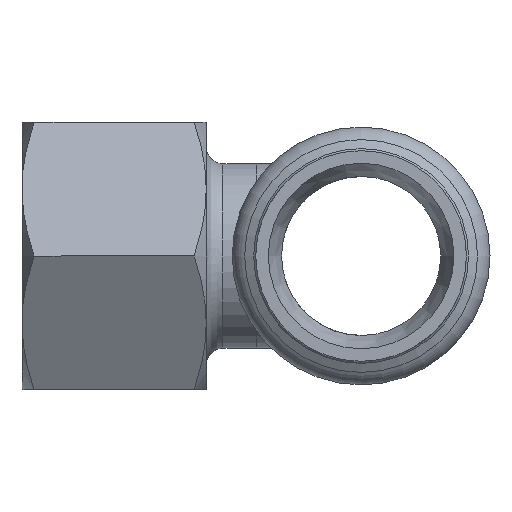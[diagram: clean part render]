
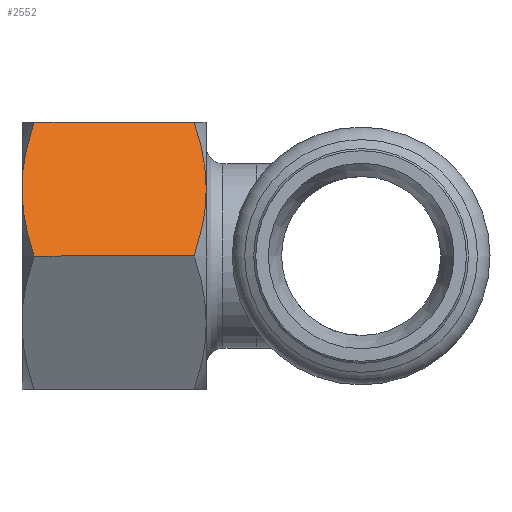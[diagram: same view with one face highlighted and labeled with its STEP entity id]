
A CAD part, left-side view. The second image highlights one B-rep face of the part: STEP entity #2552.
In plain terms, the highlighted planar face has unit normal (-0.866, 0, 0.5) as drawn and (0.866, -0.5, 0) by its records, which use the part's own axes.
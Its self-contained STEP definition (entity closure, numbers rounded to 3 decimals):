
#2131=CARTESIAN_POINT('',(9.238,-16.,1.429));
#2132=VERTEX_POINT('',#2131);
#2133=CARTESIAN_POINT('',(13.856,-8.,0.0));
#2134=VERTEX_POINT('',#2133);
#2135=CARTESIAN_POINT('',(9.238,-16.,1.429));
#2136=CARTESIAN_POINT('',(11.713,-11.713,0.));
#2137=CARTESIAN_POINT('',(13.856,-8.,0.0));
#2145=(BOUNDED_CURVE()B_SPLINE_CURVE(2,(#2135,#2136,#2137),.UNSPECIFIED.,.F.,.U.)B_SPLINE_CURVE_WITH_KNOTS((3,3),(0.908,1.989),.UNSPECIFIED.)CURVE()GEOMETRIC_REPRESENTATION_ITEM()RATIONAL_B_SPLINE_CURVE((1.065,1.071,1.0))REPRESENTATION_ITEM(''));
#2146=EDGE_CURVE('',#2132,#2134,#2145,.T.);
#2176=CARTESIAN_POINT('',(18.475,0.,1.429));
#2177=VERTEX_POINT('',#2176);
#2178=CARTESIAN_POINT('',(13.856,-8.,0.0));
#2179=CARTESIAN_POINT('',(16.,-4.287,0.));
#2180=CARTESIAN_POINT('',(18.475,0.,1.429));
#2188=(BOUNDED_CURVE()B_SPLINE_CURVE(2,(#2178,#2179,#2180),.UNSPECIFIED.,.F.,.U.)B_SPLINE_CURVE_WITH_KNOTS((3,3),(1.989,3.071),.UNSPECIFIED.)CURVE()GEOMETRIC_REPRESENTATION_ITEM()RATIONAL_B_SPLINE_CURVE((1.0,1.071,1.065))REPRESENTATION_ITEM(''));
#2189=EDGE_CURVE('',#2134,#2177,#2188,.T.);
#2311=CARTESIAN_POINT('',(18.475,0.,20.571));
#2312=VERTEX_POINT('',#2311);
#2313=CARTESIAN_POINT('',(13.856,-8.,22.));
#2314=VERTEX_POINT('',#2313);
#2315=CARTESIAN_POINT('',(18.475,0.,20.571));
#2316=CARTESIAN_POINT('',(16.,-4.287,22.));
#2317=CARTESIAN_POINT('',(13.856,-8.,22.));
#2325=(BOUNDED_CURVE()B_SPLINE_CURVE(2,(#2315,#2316,#2317),.UNSPECIFIED.,.F.,.U.)B_SPLINE_CURVE_WITH_KNOTS((3,3),(0.908,1.989),.UNSPECIFIED.)CURVE()GEOMETRIC_REPRESENTATION_ITEM()RATIONAL_B_SPLINE_CURVE((1.065,1.071,1.0))REPRESENTATION_ITEM(''));
#2326=EDGE_CURVE('',#2312,#2314,#2325,.T.);
#2356=CARTESIAN_POINT('',(9.238,-16.,20.571));
#2357=VERTEX_POINT('',#2356);
#2373=CARTESIAN_POINT('',(13.856,-8.,22.));
#2374=CARTESIAN_POINT('',(11.713,-11.713,22.));
#2375=CARTESIAN_POINT('',(9.238,-16.,20.571));
#2383=(BOUNDED_CURVE()B_SPLINE_CURVE(2,(#2373,#2374,#2375),.UNSPECIFIED.,.F.,.U.)B_SPLINE_CURVE_WITH_KNOTS((3,3),(1.989,3.071),.UNSPECIFIED.)CURVE()GEOMETRIC_REPRESENTATION_ITEM()RATIONAL_B_SPLINE_CURVE((1.0,1.071,1.065))REPRESENTATION_ITEM(''));
#2384=EDGE_CURVE('',#2314,#2357,#2383,.T.);
#2529=CARTESIAN_POINT('',(18.475,0.,0.0));
#2530=DIRECTION('',(0.866,-0.5,0.0));
#2531=DIRECTION('',(0.0,0.0,-1.0));
#2532=AXIS2_PLACEMENT_3D('',#2529,#2530,#2531);
#2533=PLANE('',#2532);
#2534=ORIENTED_EDGE('',*,*,#2146,.T.);
#2535=ORIENTED_EDGE('',*,*,#2189,.T.);
#2536=CARTESIAN_POINT('',(18.475,0.,1.429));
#2537=DIRECTION('',(0.0,0.0,1.0));
#2538=VECTOR('',#2537,19.142);
#2539=LINE('',#2536,#2538);
#2540=EDGE_CURVE('',#2177,#2312,#2539,.T.);
#2541=ORIENTED_EDGE('',*,*,#2540,.T.);
#2542=ORIENTED_EDGE('',*,*,#2326,.T.);
#2543=ORIENTED_EDGE('',*,*,#2384,.T.);
#2544=CARTESIAN_POINT('',(9.238,-16.,1.429));
#2545=DIRECTION('',(0.0,0.0,1.0));
#2546=VECTOR('',#2545,19.142);
#2547=LINE('',#2544,#2546);
#2548=EDGE_CURVE('',#2132,#2357,#2547,.T.);
#2549=ORIENTED_EDGE('',*,*,#2548,.F.);
#2550=EDGE_LOOP('',(#2534,#2535,#2541,#2542,#2543,#2549));
#2551=FACE_OUTER_BOUND('',#2550,.T.);
#2552=ADVANCED_FACE('',(#2551),#2533,.T.);
